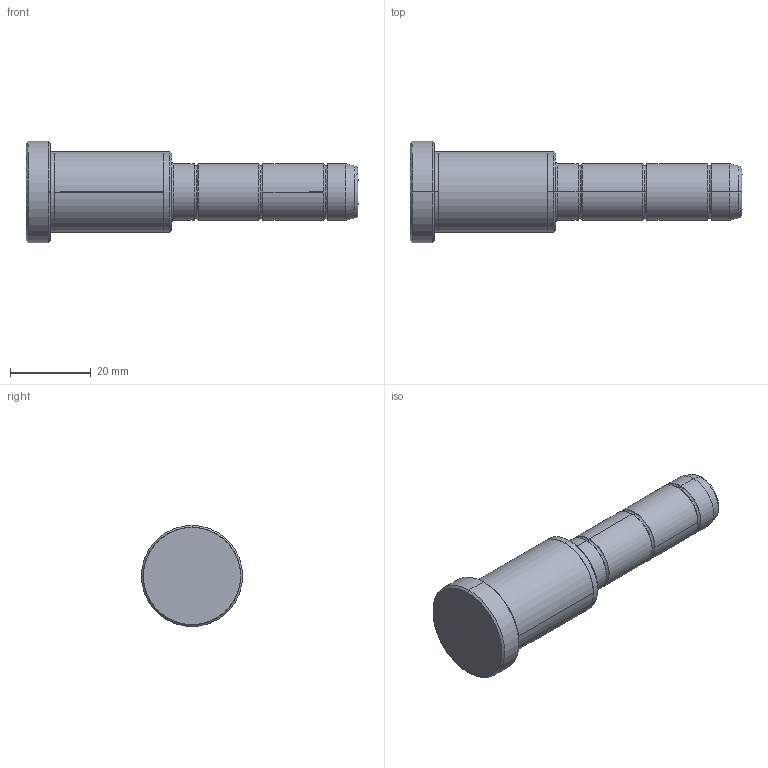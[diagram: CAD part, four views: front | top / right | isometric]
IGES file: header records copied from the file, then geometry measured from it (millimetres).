
Start section: SolidWorks IGES file using analytic representation for surfaces
Global section: file name: C:\Users\Dell\Desktop\deltakont\kontrol edilecekler\D02\Ø14\D02_14x36x46.IGS; native system: SolidWorks 2010; preprocessor: SolidWorks 2010; author: Dell; date: 111225.230817; units: millimetre
Bounding box: 82 x 25 x 25 mm (x, y, z)
Surface area: 5309.7 mm2 (no closed solid volume)
Topology: 0 solids, 0 shells, 48 faces, 495 edges, 495 vertices
Faces by surface type: revolution 26, bspline 22
